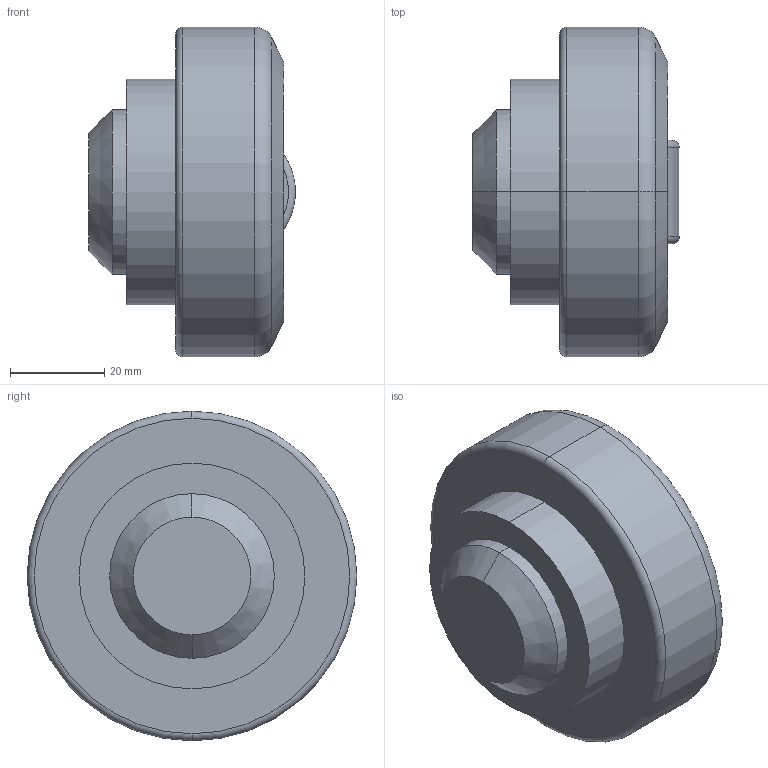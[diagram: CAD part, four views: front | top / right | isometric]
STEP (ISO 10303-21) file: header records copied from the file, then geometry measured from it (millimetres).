
FILE_DESCRIPTION (( 'STEP AP203' ), '1' );
FILE_NAME ('3D40055.STEP', '2002-11-20T09:57:32', ( 'Francesc' ), ( 'propia' ), 'SwSTEP 2.0', 'SolidWorks 2001039', '' );
FILE_SCHEMA (( 'CONFIG_CONTROL_DESIGN' ));
Length unit declared in the file: millimetre
Products named in the file (1): 2
Bounding box: 43.95 x 70.1 x 70.1 mm (x, y, z)
Volume: 111607.2 mm3; surface area: 14039.6 mm2
Topology: 1 solids, 1 shells, 23 faces, 46 edges, 28 vertices
Faces by surface type: cylinder 7, plane 6, torus 6, cone 4
Entity records: 725 total; most frequent: CARTESIAN_POINT 150, DIRECTION 118, ORIENTED_EDGE 92, AXIS2_PLACEMENT_3D 52, EDGE_CURVE 46, VERTEX_POINT 28, CIRCLE 28, EDGE_LOOP 26
